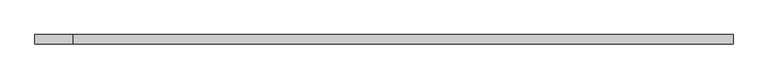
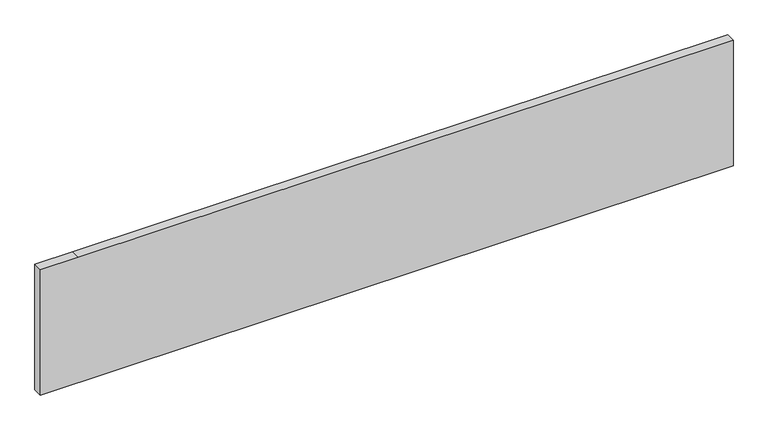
"""IFC4 building model written with IfcOpenShell, lengths in millimetres: plate geometry, 系统嵌板 : 玻璃."""

from ifc_helpers import new_model, si_unit, frame, origin, place, context, project, spatial, polyline, outline, extrude, source, transform, mapped, element, save


def plate_d467b3da(model_context):
    return source(origin(), model_context, "Body", "SweptSolid", [
        extrude(outline(polyline([(0.0, -915.0), (0.0, 915.0), (350.0, 915.0), (350.0, -815.0), (350.0, -915.0), (0.0, -915.0)])), frame((0.0, -12.5, 0.0), z_axis=(0.0, 1.0, 0.0), x_axis=(0.0, 0.0, 1.0)), (0.0, 0.0, 1.0), 25.0),
    ])


if __name__ == "__main__":
    model = new_model("IFC4")
    model_context = context("Model", 3, world=origin())
    ifc_project = project(units=[si_unit("LENGTHUNIT", "METRE", prefix="MILLI")], contexts=[model_context])
    site = spatial("IfcSite", under=ifc_project)
    building = spatial("IfcBuilding", under=site)
    placement = place(None, origin())
    plate_shape = plate_d467b3da(model_context)
    element("IfcPlate", 1, ObjectType="系统嵌板 : 玻璃", at=placement, inside=building, context=model_context, shape_type="MappedRepresentation", body=[
        mapped(plate_shape, transform((0.0, 0.0, 0.0), x_axis=(1.0, 0.0, 0.0), y_axis=(0.0, 1.0, 0.0), z_axis=(0.0, 0.0, 1.0))),
    ])
    save(model, "model.ifc")
